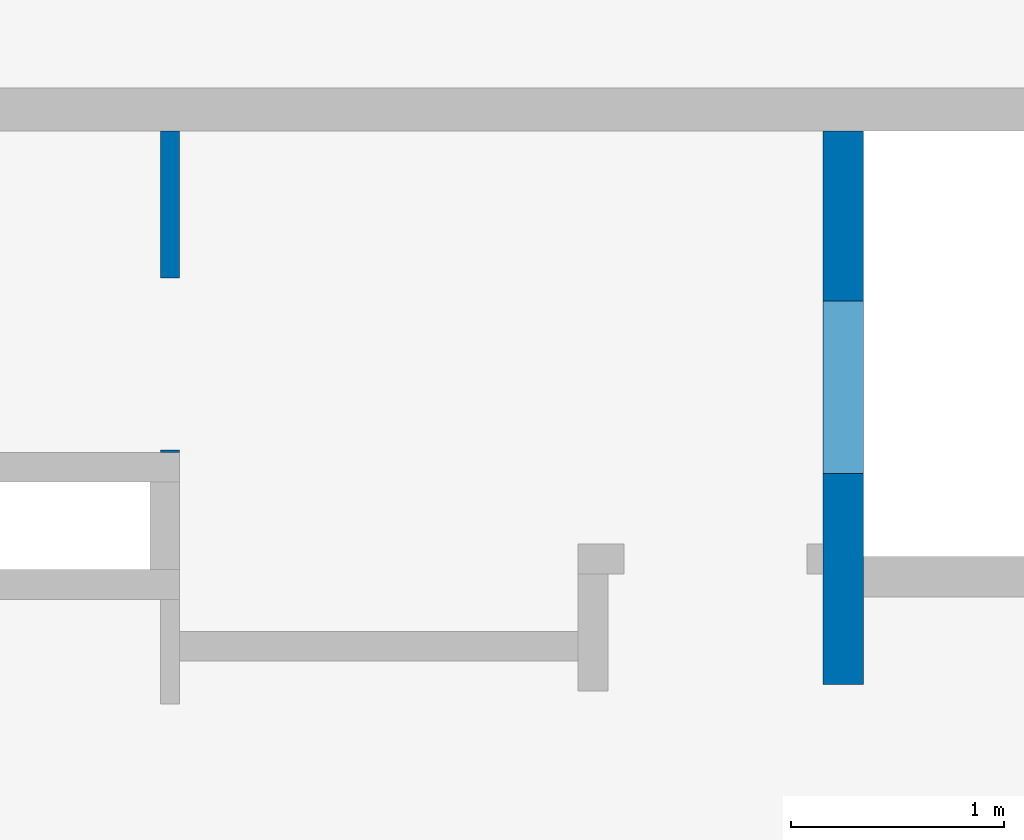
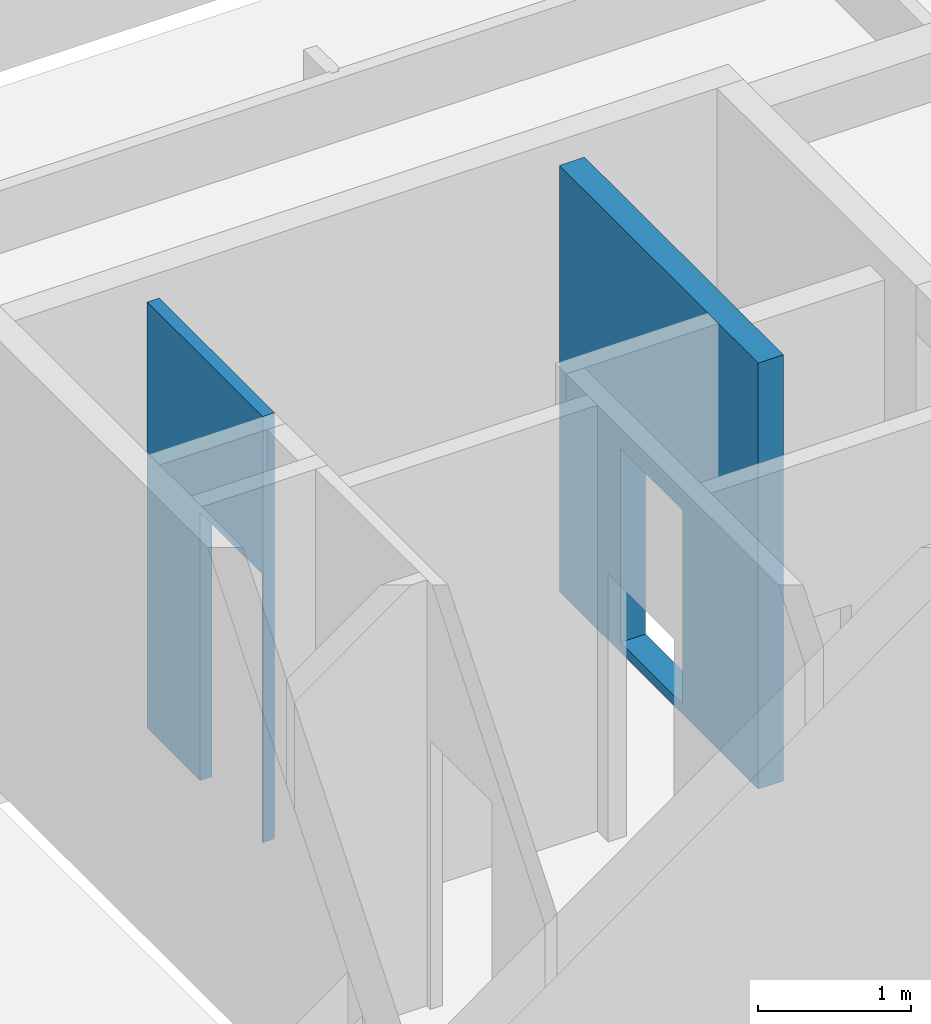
# One storey, part 37 of 37: 2 walls.
"""IFC4X3_ADD2 building model written with IfcOpenShell, lengths in millimetres."""

from ifc_helpers import new_model, si_unit, direction, frame, origin_with_axes, place, context, subcontext, project, spatial, polygons, element, save


model = new_model("IFC4X3_ADD2")

# Units and contexts
model_context = context("Model", 3, precision=1e-05, world=origin_with_axes(), true_north=direction((0.0, 1.0)))
body_context = subcontext(model_context, "Body", "Model", "MODEL_VIEW")
ifc_project = project(units=[si_unit("LENGTHUNIT", "METRE", prefix="MILLI"), si_unit("AREAUNIT", "SQUARE_METRE"), si_unit("VOLUMEUNIT", "CUBIC_METRE"), si_unit("PLANEANGLEUNIT", "RADIAN"), si_unit("TIMEUNIT", "SECOND"), si_unit("MASSUNIT", "GRAM")], contexts=[model_context])

# Site, building, storey
site_placement = place(None, origin_with_axes())
site = spatial("IfcSite", under=ifc_project, at=site_placement, Name="Site", CompositionType="ELEMENT")
building_placement = place(site_placement, origin_with_axes())
building = spatial("IfcBuilding", under=site, at=building_placement, Name="IFC Building Story")
storey_placement = place(building_placement, frame((0.0, 0.0, 3600.0), z_axis=(0.0, 0.0, 1.0), x_axis=(1.0, 0.0, 0.0)))
storey = spatial("IfcBuildingStorey", under=building, at=storey_placement, Name="010", Elevation=3600.0)

# Walls
wall_1_placement = place(storey_placement, frame((0.0, 0.0, -3600.0), z_axis=(0.0, 0.0, 1.0), x_axis=(1.0, 0.0, 0.0)))
element("IfcWall", 1, at=wall_1_placement, inside=storey, Name="Basic Wall:BB_XX_Wand uit metselwerk, 90 mm", ObjectType="Basic Wall:BB_XX_Wand uit metselwerk, 90 mm", PredefinedType="SOLIDWALL", context=body_context, shape_type="Tessellation", body=[
    polygons([(-11410.004065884, 43500.00000000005, 3520.0), (-11410.004065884, 43500.00000000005, 6920.0), (-11410.004065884, 41990.0, 6920.0), (-11410.004065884, 41990.0, 3520.0), (-11410.004065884, 42002.00000000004, 3520.0), (-11410.004065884, 42002.00000000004, 5660.0), (-11410.004065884, 42808.00000000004, 5660.0), (-11410.004065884, 42808.00000000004, 3520.0), (-11500.004065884, 43500.00000000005, 6920.0), (-11500.004065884, 43500.00000000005, 3520.0), (-11500.004065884, 42808.00000000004, 3520.0), (-11500.004065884, 42808.00000000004, 5660.0), (-11500.004065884, 42002.00000000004, 5660.0), (-11500.004065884, 42002.00000000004, 3520.0), (-11500.004065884, 41990.0, 3520.0), (-11500.004065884, 41990.0, 6920.0)], [[[7, 8, 1]], [[7, 1, 2]], [[2, 3, 6]], [[2, 6, 7]], [[6, 3, 4]], [[4, 5, 6]], [[13, 14, 15]], [[15, 16, 13]], [[16, 9, 12]], [[16, 12, 13]], [[9, 10, 11]], [[9, 11, 12]], [[4, 15, 14, 5]], [[2, 1, 10, 9]], [[3, 2, 9, 16]], [[4, 3, 16, 15]], [[13, 6, 5, 14]], [[7, 12, 11, 8]], [[6, 13, 12, 7]], [[10, 1, 8, 11]]]),
])
wall_2_placement = place(storey_placement, frame((0.0, 0.0, -3600.0), z_axis=(0.0, 0.0, 1.0), x_axis=(1.0, 0.0, 0.0)))
element("IfcWall", 2, at=wall_2_placement, inside=storey, Name="Basic Wall:BB_XX_Wand uit metselwerk, 190 mm", ObjectType="Basic Wall:BB_XX_Wand uit metselwerk, 190 mm", PredefinedType="SOLIDWALL", context=body_context, shape_type="Tessellation", body=[
    polygons([(-8390.0, 43500.0, 3520.0), (-8390.0, 40900.00000000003, 3520.0), (-8390.0, 40900.00000000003, 6920.0), (-8390.0, 43500.0, 6920.0), (-8389.999999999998, 41889.9999999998, 5145.0), (-8389.999999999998, 41889.9999999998, 3600.000000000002), (-8390.0, 42699.9999999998, 3600.000000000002), (-8390.0, 42699.9999999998, 5145.0), (-8200.0, 40900.00000000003, 3520.0), (-8200.0, 43500.0, 3520.0), (-8200.0, 43500.0, 6920.0), (-8200.0, 40900.00000000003, 6920.0), (-8199.999999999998, 41889.9999999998, 3600.000000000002), (-8199.999999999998, 41889.9999999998, 5145.0), (-8200.0, 42699.9999999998, 5145.0), (-8200.0, 42699.9999999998, 3600.000000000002)], [[[8, 5, 3]], [[8, 3, 4]], [[4, 1, 8]], [[1, 7, 8]], [[1, 6, 7]], [[1, 2, 6]], [[2, 3, 5]], [[2, 5, 6]], [[16, 13, 9]], [[9, 10, 16]], [[10, 15, 16]], [[15, 10, 11]], [[11, 12, 14]], [[11, 14, 15]], [[12, 9, 13]], [[12, 13, 14]], [[2, 1, 10, 9]], [[3, 2, 9, 12]], [[4, 3, 12, 11]], [[1, 4, 11, 10]], [[5, 14, 13, 6]], [[6, 13, 16, 7]], [[7, 16, 15, 8]], [[14, 5, 8, 15]]]),
])

save(model, "model.ifc")
